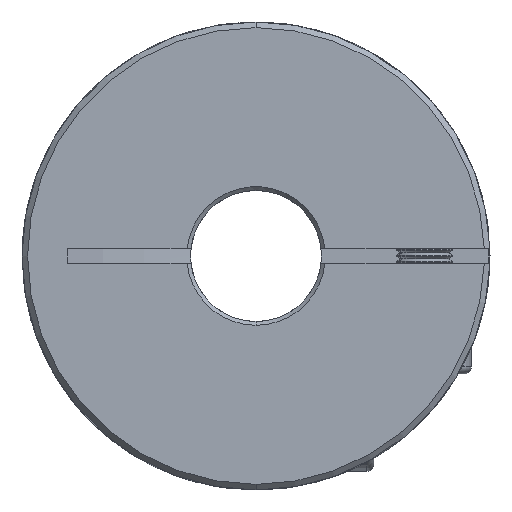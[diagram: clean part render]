
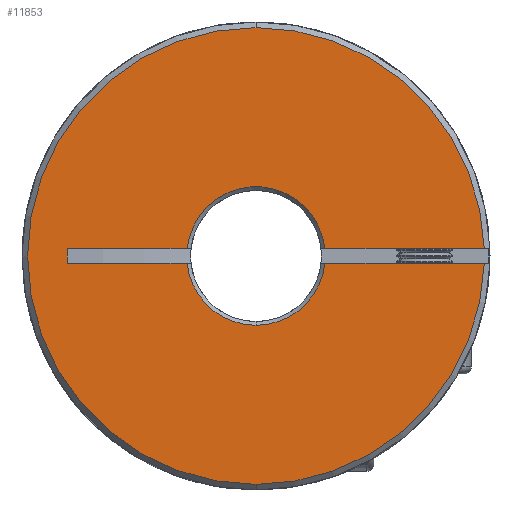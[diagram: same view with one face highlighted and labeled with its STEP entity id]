
A CAD part, front view. The second image highlights one B-rep face of the part: STEP entity #11853.
In plain terms, the highlighted planar face has unit normal (0, -1, 0).
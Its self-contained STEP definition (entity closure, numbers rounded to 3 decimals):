
#215 = DIRECTION ( 'NONE',  ( 1., 0., 0. ) ) ;
#247 = CARTESIAN_POINT ( 'NONE',  ( 0., 0., 0. ) ) ;
#384 = CIRCLE ( 'NONE', #15666, 24.4 ) ;
#405 = CIRCLE ( 'NONE', #2811, 7.4 ) ;
#407 = CARTESIAN_POINT ( 'NONE',  ( -7.362, 0., 0.75 ) ) ;
#489 = ORIENTED_EDGE ( 'NONE', *, *, #4369, .T. ) ;
#523 = VERTEX_POINT ( 'NONE', #3460 ) ;
#597 = DIRECTION ( 'NONE',  ( 1., 0., 0. ) ) ;
#883 = EDGE_CURVE ( 'NONE', #5562, #10917, #16896, .T. ) ;
#1239 = AXIS2_PLACEMENT_3D ( 'NONE', #7516, #12954, #2369 ) ;
#1538 = CARTESIAN_POINT ( 'NONE',  ( -50., 0., 0.75 ) ) ;
#1596 = CIRCLE ( 'NONE', #1239, 7.4 ) ;
#1638 = DIRECTION ( 'NONE',  ( 1., 0., 0. ) ) ;
#2272 = CARTESIAN_POINT ( 'NONE',  ( 0., 0., 0. ) ) ;
#2301 = DIRECTION ( 'NONE',  ( 0., 0., 1. ) ) ;
#2369 = DIRECTION ( 'NONE',  ( 0., 0., 1. ) ) ;
#2437 = CARTESIAN_POINT ( 'NONE',  ( 0., 0., 0. ) ) ;
#2497 = ORIENTED_EDGE ( 'NONE', *, *, #8091, .T. ) ;
#2811 = AXIS2_PLACEMENT_3D ( 'NONE', #2272, #7656, #7583 ) ;
#2931 = DIRECTION ( 'NONE',  ( 0., 1., 0. ) ) ;
#3460 = CARTESIAN_POINT ( 'NONE',  ( 0., 0., 24.4 ) ) ;
#3810 = CIRCLE ( 'NONE', #12629, 24.4 ) ;
#3893 = VECTOR ( 'NONE', #1638, 1000. ) ;
#3898 = LINE ( 'NONE', #15053, #6995 ) ;
#4030 = DIRECTION ( 'NONE',  ( 1., 0., 0. ) ) ;
#4275 = EDGE_CURVE ( 'NONE', #5143, #7622, #14683, .T. ) ;
#4369 = EDGE_CURVE ( 'NONE', #8413, #5320, #1596, .T. ) ;
#4462 = PLANE ( 'NONE',  #11198 ) ;
#4889 = FACE_OUTER_BOUND ( 'NONE', #11583, .T. ) ;
#5029 = CARTESIAN_POINT ( 'NONE',  ( 0., 0., -7.4 ) ) ;
#5143 = VERTEX_POINT ( 'NONE', #13275 ) ;
#5320 = VERTEX_POINT ( 'NONE', #13663 ) ;
#5411 = EDGE_CURVE ( 'NONE', #11062, #523, #8072, .T. ) ;
#5562 = VERTEX_POINT ( 'NONE', #5029 ) ;
#5720 = VECTOR ( 'NONE', #4030, 1000. ) ;
#5836 = DIRECTION ( 'NONE',  ( 0., -1., 0. ) ) ;
#5868 = EDGE_CURVE ( 'NONE', #11895, #16287, #13361, .T. ) ;
#6003 = DIRECTION ( 'NONE',  ( 0., 0., 1. ) ) ;
#6305 = ORIENTED_EDGE ( 'NONE', *, *, #883, .T. ) ;
#6545 = ORIENTED_EDGE ( 'NONE', *, *, #4275, .T. ) ;
#6675 = VERTEX_POINT ( 'NONE', #11601 ) ;
#6855 = EDGE_CURVE ( 'NONE', #5320, #11062, #15407, .T. ) ;
#6911 = CARTESIAN_POINT ( 'NONE',  ( -50., 0., -0.75 ) ) ;
#6995 = VECTOR ( 'NONE', #215, 1000. ) ;
#7516 = CARTESIAN_POINT ( 'NONE',  ( 0., 0., 0. ) ) ;
#7583 = DIRECTION ( 'NONE',  ( 0., 0., 1. ) ) ;
#7622 = VERTEX_POINT ( 'NONE', #7923 ) ;
#7656 = DIRECTION ( 'NONE',  ( 0., 1., 0. ) ) ;
#7923 = CARTESIAN_POINT ( 'NONE',  ( -20.149, 0., 0.75 ) ) ;
#7943 = DIRECTION ( 'NONE',  ( 0., 0., 1. ) ) ;
#8028 = VECTOR ( 'NONE', #597, 1000. ) ;
#8072 = CIRCLE ( 'NONE', #15913, 24.4 ) ;
#8091 = EDGE_CURVE ( 'NONE', #11895, #5562, #405, .T. ) ;
#8142 = ORIENTED_EDGE ( 'NONE', *, *, #6855, .T. ) ;
#8281 = DIRECTION ( 'NONE',  ( 0., 0., 1. ) ) ;
#8339 = DIRECTION ( 'NONE',  ( 0., 1., 0. ) ) ;
#8413 = VERTEX_POINT ( 'NONE', #407 ) ;
#8443 = ORIENTED_EDGE ( 'NONE', *, *, #11486, .T. ) ;
#8778 = EDGE_CURVE ( 'NONE', #6675, #16287, #3810, .T. ) ;
#9215 = DIRECTION ( 'NONE',  ( 0., -1., 0. ) ) ;
#9962 = CARTESIAN_POINT ( 'NONE',  ( 0., 0., 0. ) ) ;
#10238 = CARTESIAN_POINT ( 'NONE',  ( 24.388, 0., 0.75 ) ) ;
#10487 = EDGE_CURVE ( 'NONE', #5143, #10917, #3898, .T. ) ;
#10917 = VERTEX_POINT ( 'NONE', #15325 ) ;
#11062 = VERTEX_POINT ( 'NONE', #10238 ) ;
#11198 = AXIS2_PLACEMENT_3D ( 'NONE', #16443, #2931, #12462 ) ;
#11486 = EDGE_CURVE ( 'NONE', #7622, #8413, #12887, .T. ) ;
#11583 = EDGE_LOOP ( 'NONE', ( #16194, #2497, #6305, #12700, #6545, #8443, #489, #8142, #13507, #16351, #12973 ) ) ;
#11601 = CARTESIAN_POINT ( 'NONE',  ( 0., 0., -24.4 ) ) ;
#11853 = ADVANCED_FACE ( 'NONE', ( #4889 ), #4462, .F. ) ;
#11895 = VERTEX_POINT ( 'NONE', #15067 ) ;
#12462 = DIRECTION ( 'NONE',  ( 0., 0., 1. ) ) ;
#12629 = AXIS2_PLACEMENT_3D ( 'NONE', #14546, #9215, #2301 ) ;
#12700 = ORIENTED_EDGE ( 'NONE', *, *, #10487, .F. ) ;
#12887 = LINE ( 'NONE', #1538, #8028 ) ;
#12954 = DIRECTION ( 'NONE',  ( 0., 1., 0. ) ) ;
#12973 = ORIENTED_EDGE ( 'NONE', *, *, #8778, .T. ) ;
#13275 = CARTESIAN_POINT ( 'NONE',  ( -20.149, 0., -0.75 ) ) ;
#13361 = LINE ( 'NONE', #6911, #3893 ) ;
#13507 = ORIENTED_EDGE ( 'NONE', *, *, #5411, .T. ) ;
#13663 = CARTESIAN_POINT ( 'NONE',  ( 7.362, 0., 0.75 ) ) ;
#13730 = EDGE_CURVE ( 'NONE', #523, #6675, #384, .T. ) ;
#14016 = CARTESIAN_POINT ( 'NONE',  ( -20.149, 0., -0.75 ) ) ;
#14104 = CARTESIAN_POINT ( 'NONE',  ( 24.388, 0., -0.75 ) ) ;
#14546 = CARTESIAN_POINT ( 'NONE',  ( 0., 0., 0. ) ) ;
#14683 = LINE ( 'NONE', #14016, #15081 ) ;
#15053 = CARTESIAN_POINT ( 'NONE',  ( -50., 0., -0.75 ) ) ;
#15067 = CARTESIAN_POINT ( 'NONE',  ( 7.362, 0., -0.75 ) ) ;
#15081 = VECTOR ( 'NONE', #6003, 1000. ) ;
#15325 = CARTESIAN_POINT ( 'NONE',  ( -7.362, 0., -0.75 ) ) ;
#15407 = LINE ( 'NONE', #17320, #5720 ) ;
#15666 = AXIS2_PLACEMENT_3D ( 'NONE', #2437, #17435, #7943 ) ;
#15913 = AXIS2_PLACEMENT_3D ( 'NONE', #9962, #5836, #16621 ) ;
#16194 = ORIENTED_EDGE ( 'NONE', *, *, #5868, .F. ) ;
#16287 = VERTEX_POINT ( 'NONE', #14104 ) ;
#16351 = ORIENTED_EDGE ( 'NONE', *, *, #13730, .T. ) ;
#16443 = CARTESIAN_POINT ( 'NONE',  ( -50., 0., 32.858 ) ) ;
#16621 = DIRECTION ( 'NONE',  ( 0., 0., 1. ) ) ;
#16896 = CIRCLE ( 'NONE', #17287, 7.4 ) ;
#17287 = AXIS2_PLACEMENT_3D ( 'NONE', #247, #8339, #8281 ) ;
#17320 = CARTESIAN_POINT ( 'NONE',  ( -50., 0., 0.75 ) ) ;
#17435 = DIRECTION ( 'NONE',  ( 0., -1., 0. ) ) ;
